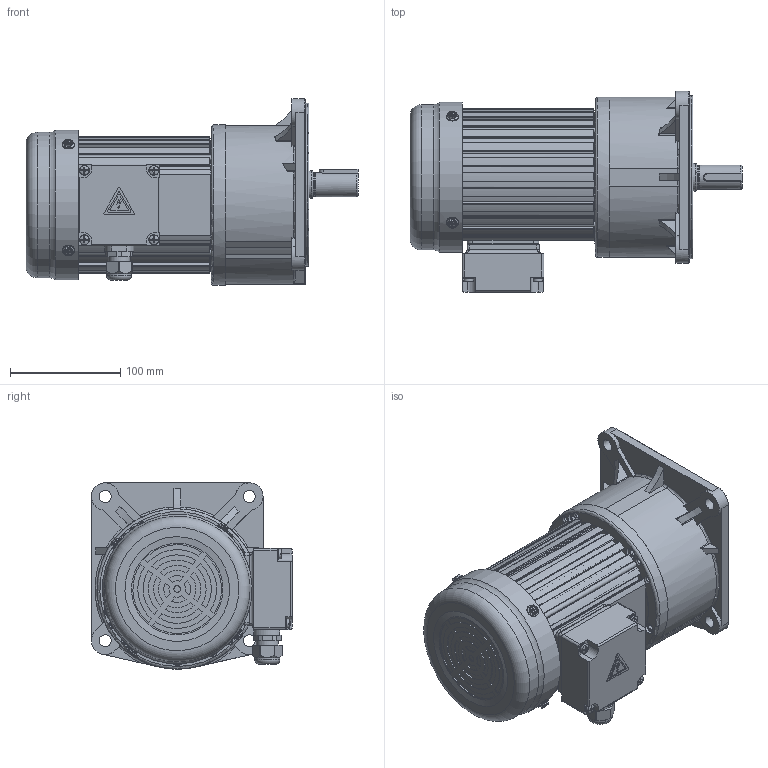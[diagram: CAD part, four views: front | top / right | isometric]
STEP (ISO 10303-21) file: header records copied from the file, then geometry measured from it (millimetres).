
FILE_DESCRIPTION(/* description */ (''),/* implementation_level */ '2;1');
FILE_NAME(/* name */ 'CV22-200-3～200外形多速比.stp',/* time_stamp */ '2025-04-30T14:58:30+08:00',/* author */ (''),/* organization */ (''),/* preprocessor_version */ 'ST-DEVELOPER v18.102',/* originating_system */ 'SIEMENS PLM Software NX 2027',/* authorisation */ '');
FILE_SCHEMA (('AP203_CONFIGURATION_CONTROLLED_3D_DESIGN_OF_MECHANICAL_PARTS_AND_ASSEMBLIES_MIM_LF { 1 0 10303 403 2 1 2}'));
Length unit declared in the file: millimetre
Products named in the file (1): CV22-200-3～200外形多速比_obj
ects
Bounding box: 301.3 x 182.66 x 169.16 mm (x, y, z)
Volume: 3687423.1 mm3; surface area: 316019.3 mm2
Topology: 5 solids, 5 shells, 2034 faces, 5241 edges, 3287 vertices
Faces by surface type: plane 967, cylinder 523, cone 260, bspline 132, torus 127, revolution 16, sphere 9
Full cylindrical faces by diameter (mm): 3 x2, 4.2 x20, 4.336 x2, 4.6 x4, 4.826 x4, 5 x6, 5.795 x5, 6 x5, 6.4 x4, 7 x3, 8.5 x4, 9 x4, 10 x5, 11 x13, 13.98 x1, 14.5 x1, 17 x2, 20 x1, 21 x1, 21.6 x1, 22 x1, 22.5 x1, 25 x1, 40 x1, 50 x1, 56 x1, 65 x1, 110.5 x2, 132 x1, 136 x1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
Entity records: 64306 total; most frequent: CARTESIAN_POINT 17058, ORIENTED_EDGE 9880, DIRECTION 9540, EDGE_CURVE 4940, AXIS2_PLACEMENT_3D 3657, VERTEX_POINT 3208, EDGE_LOOP 2333, LINE 2210
